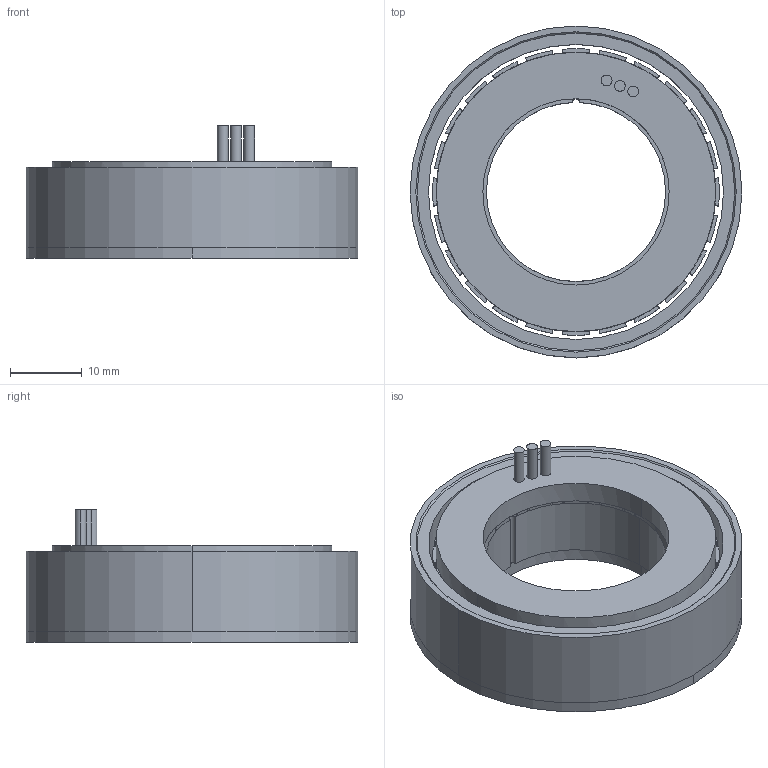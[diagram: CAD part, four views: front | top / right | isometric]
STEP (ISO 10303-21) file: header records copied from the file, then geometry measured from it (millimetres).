
FILE_DESCRIPTION (( 'STEP AP214' ), '1' );
FILE_NAME ('AJD15010010 RO40lite-KV135.STEP', '2026-06-18T09:23:59', ( '' ), ( '' ), 'SwSTEP 2.0', 'SolidWorks 2020', '' );
FILE_SCHEMA (( 'AUTOMOTIVE_DESIGN' ));
Length unit declared in the file: millimetre
Products named in the file (6): AJD15010010  RO40lite-KV135; RO40 KV135-2蛌赽; BJJ02030819-RO40钢圈; 錨璃2^AJD15010010  RO40lite-KV135; BJJ01010249-RO40棠沺遠; C0104000780-T001-4008-沺郋-24羞
Assembly tree (4 placements, depth 3):
  AJD15010010  RO40lite-KV135
    RO40 KV135-2蛌赽
      BJJ01010249-RO40棠沺遠
      BJJ02030819-RO40钢圈
    C0104000780-T001-4008-沺郋-24羞
  錨璃2^AJD15010010  RO40lite-KV135
Bounding box: 46.3 x 46.3 x 18.5 mm (x, y, z)
Volume: 13797.7 mm3; surface area: 13019 mm2
Topology: 4 solids, 4 shells, 476 faces, 1323 edges, 880 vertices
Faces by surface type: plane 269, cylinder 175, cone 32
Entity records: 15974 total; most frequent: CARTESIAN_POINT 2855, DIRECTION 2785, ORIENTED_EDGE 2646, EDGE_CURVE 1323, AXIS2_PLACEMENT_3D 1034, VERTEX_POINT 880, VECTOR 717, LINE 717
